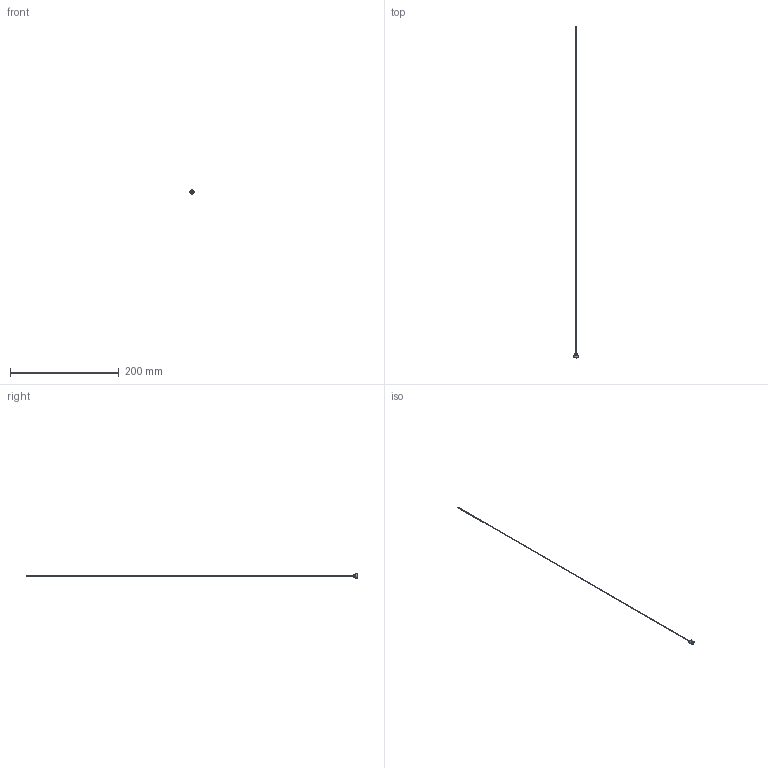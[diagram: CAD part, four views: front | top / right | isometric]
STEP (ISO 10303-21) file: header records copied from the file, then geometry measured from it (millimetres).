
FILE_DESCRIPTION(/* description */ (''),/* implementation_level */ '2;1');
FILE_NAME(/* name */ 'C:/Users/drich/Desktop/cad/Cascades/Jet Cool/Components/Inner Tubes/PT16-050/PT16-050-24 v1.step',/* time_stamp */ '2020-01-10T15:10:22-06:00',/* author */ (''),/* organization */ (''),/* preprocessor_version */ 'ST-DEVELOPER v18',/* originating_system */ 'Autodesk Translation Framework v8.12.0.6',/* authorisation */ '');
FILE_SCHEMA (('AUTOMOTIVE_DESIGN { 1 0 10303 214 3 1 1 }'));
Length unit declared in the file: inch
Products named in the file (1): PT16-050-24
Bounding box: 7.62 x 609.6 x 7.62 mm (x, y, z)
Volume: 466.8 mm3; surface area: 4723.1 mm2
Topology: 1 solids, 1 shells, 19 faces, 48 edges, 34 vertices
Faces by surface type: plane 11, cylinder 4, torus 2, cone 2
Full cylindrical faces by diameter (mm): 1.067 x1, 1.27 x1, 4.724 x1, 7.616 x1
Entity records: 633 total; most frequent: DIRECTION 112, CARTESIAN_POINT 102, ORIENTED_EDGE 96, EDGE_CURVE 48, AXIS2_PLACEMENT_3D 44, VERTEX_POINT 34, CIRCLE 24, EDGE_LOOP 24
